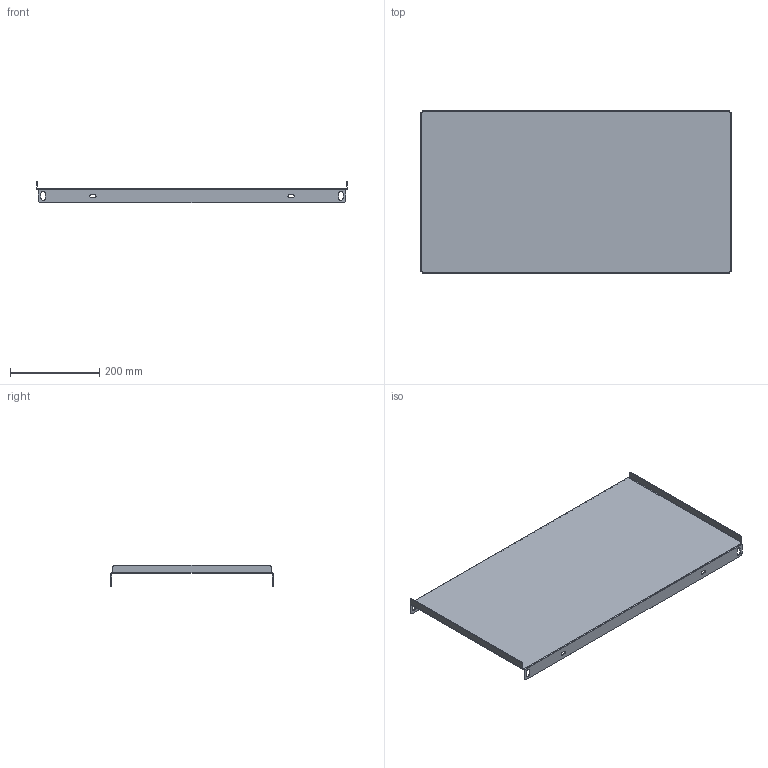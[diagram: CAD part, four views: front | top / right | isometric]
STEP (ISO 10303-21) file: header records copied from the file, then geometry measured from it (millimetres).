
FILE_DESCRIPTION (( 'STEP AP203' ), '1' );
FILE_NAME ('EUPU-080040.STEP', '2015-04-22T10:00:31', ( 'Admin' ), ( '' ), 'SwSTEP 2.0', 'SolidWorks 2014', '' );
FILE_SCHEMA (( 'CONFIG_CONTROL_DESIGN' ));
Length unit declared in the file: millimetre
Products named in the file (1): EUPU-080040
Bounding box: 698 x 365 x 47.5 mm (x, y, z)
Volume: 603380.6 mm3; surface area: 613532 mm2
Topology: 1 solids, 1 shells, 82 faces, 240 edges, 160 vertices
Faces by surface type: plane 46, cylinder 36
Entity records: 2845 total; most frequent: CARTESIAN_POINT 483, ORIENTED_EDGE 480, DIRECTION 478, EDGE_CURVE 240, LINE 168, VECTOR 168, VERTEX_POINT 160, AXIS2_PLACEMENT_3D 155
